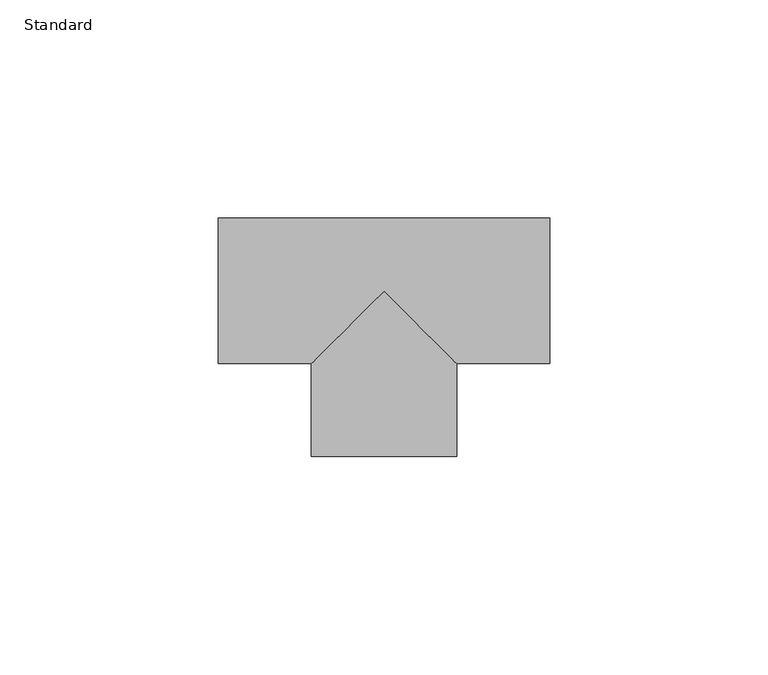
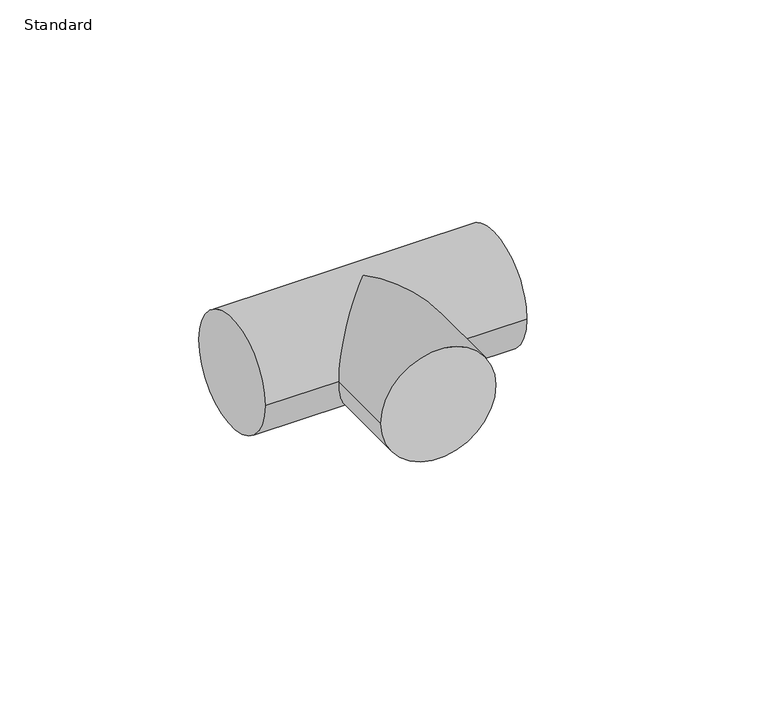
"""IFC4 building model written with IfcOpenShell, lengths in millimetres: pipe fitting geometry, Té - Générique : Standard."""

from ifc_helpers import new_model, si_unit, frame, origin, place, context, project, spatial, circle_curve, ellipse_curve, source, transform, mapped, element, save
from ifc_brep_helpers import plane_surface, cylinder_surface, advanced_brep


def standard_ec0e7028(model_context):
    return source(origin(), model_context, "Body", "AdvancedBrep", [
        advanced_brep(
        [(-38.0, -16.7, 0.0), (-38.0, 16.7, 0.0), (38.0, -16.7, 0.0), (38.0, 16.7, 0.0), (-16.7, -16.7, 0.0), (0.0, 0.0, 16.7), (16.7, -16.7, 0.0), (0.0, 0.0, -16.7), (-16.7, -38.0, 0.0), (16.7, -38.0, 0.0)],
        [
            (0, 1, circle_curve(frame((-38.0, 0.0, 0.0), z_axis=(-1.0, 0.0, 0.0), x_axis=(0.0, 1.0, 0.0)), 16.7)),
            (1, 0, circle_curve(frame((-38.0, 0.0, 0.0), z_axis=(-1.0, 0.0, 0.0), x_axis=(0.0, 1.0, 0.0)), 16.7)),
            (2, 3, circle_curve(frame((38.0, 0.0, 0.0), z_axis=(1.0, 0.0, 0.0), x_axis=(0.0, 1.0, 0.0)), 16.7)),
            (3, 2, circle_curve(frame((38.0, 0.0, 0.0), z_axis=(1.0, 0.0, 0.0), x_axis=(0.0, 1.0, 0.0)), 16.7)),
            (0, 4),
            (4, 5, ellipse_curve(frame((0.0, 0.0, 0.0), z_axis=(-0.707106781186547, 0.7071067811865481, 0.0), x_axis=(-0.707106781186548, -0.707106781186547, 0.0)), 23.6173665, 16.7)),
            (5, 6, ellipse_curve(frame((0.0, 0.0, 0.0), z_axis=(0.707106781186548, 0.7071067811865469, 0.0), x_axis=(-0.707106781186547, 0.707106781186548, 0.0)), 23.6173665, 16.7)),
            (6, 2),
            (3, 1),
            (6, 7, ellipse_curve(frame((0.0, 0.0, 0.0), z_axis=(0.707106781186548, 0.7071067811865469, 0.0), x_axis=(-0.707106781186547, 0.707106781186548, 0.0)), 23.6173665, 16.7)),
            (7, 4, ellipse_curve(frame((0.0, 0.0, 0.0), z_axis=(-0.707106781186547, 0.7071067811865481, 0.0), x_axis=(-0.707106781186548, -0.707106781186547, 0.0)), 23.6173665, 16.7)),
            (8, 9, circle_curve(frame((0.0, -38.0, 0.0), z_axis=(0.0, -1.0, 0.0), x_axis=(1.0, 0.0, 0.0)), 16.7)),
            (9, 8, circle_curve(frame((0.0, -38.0, 0.0), z_axis=(0.0, -1.0, 0.0), x_axis=(1.0, 0.0, 0.0)), 16.7)),
            (9, 6),
            (4, 8),
        ],
        [
            plane_surface(frame((-38.0, 0.0, 0.0), z_axis=(-1.0, 0.0, 0.0), x_axis=(0.0, 0.0, 1.0))),
            plane_surface(frame((38.0, 0.0, 0.0), z_axis=(1.0, 0.0, 0.0), x_axis=(0.0, 0.0, 1.0))),
            cylinder_surface(frame((-38.0, 0.0, 0.0), z_axis=(-1.0, 0.0, 0.0), x_axis=(0.0, 1.0, 0.0)), 16.7),
            plane_surface(frame((0.0, -38.0, 0.0), z_axis=(0.0, -1.0, 0.0), x_axis=(0.0, 0.0, 1.0))),
            cylinder_surface(frame((0.0, 0.0, 0.0), z_axis=(0.0, 1.0, 0.0), x_axis=(1.0, 0.0, 0.0)), 16.7),
        ],
        [
            (0, [[1, 2]]),
            (1, [[3, 4]]),
            (2, [[-1, 5, 6, 7, 8, -4, 9]]),
            (2, [[-2, -9, -3, -8, 10, 11, -5]]),
            (3, [[12, 13]]),
            (4, [[-13, 14, -7, -6, 15]]),
            (4, [[-12, -15, -11, -10, -14]]),
        ],
    ),
    ])


if __name__ == "__main__":
    model = new_model("IFC4")
    model_context = context("Model", 3, world=origin())
    ifc_project = project(units=[si_unit("LENGTHUNIT", "METRE", prefix="MILLI")], contexts=[model_context])
    site = spatial("IfcSite", under=ifc_project)
    building = spatial("IfcBuilding", under=site)
    placement = place(None, origin())
    standard_shape = standard_ec0e7028(model_context)
    element("IfcPipeFitting", 1, ObjectType="Té - Générique : Standard", at=placement, inside=building, context=model_context, shape_type="MappedRepresentation", body=[
        mapped(standard_shape, transform((0.0, 0.0, 0.0), x_axis=(1.0, 0.0, 0.0), y_axis=(0.0, 1.0, 0.0), z_axis=(0.0, 0.0, 1.0))),
    ])
    save(model, "model.ifc")
